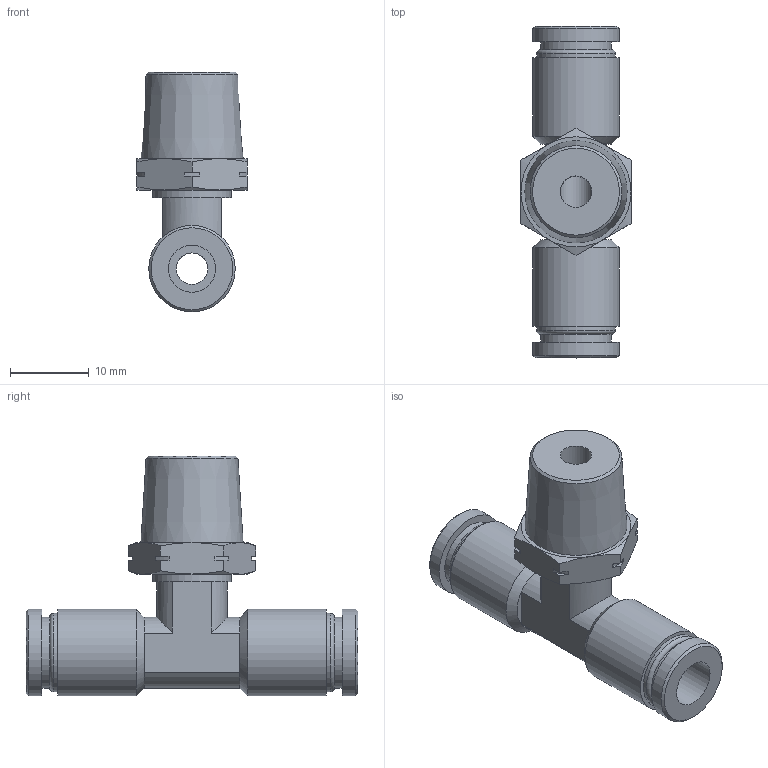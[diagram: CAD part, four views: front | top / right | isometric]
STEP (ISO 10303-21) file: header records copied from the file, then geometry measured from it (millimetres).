
FILE_DESCRIPTION(/* description */ (''),/* implementation_level */ '2;1');
FILE_NAME(/* name */ 'LXH31 0006 N2.stp',/* time_stamp */ '2025-09-15T13:11:11+02:00',/* author */ ('freju'),/* organization */ (''),/* preprocessor_version */ 'ST-DEVELOPER v20.1',/* originating_system */ 'Autodesk Inventor 2026',/* authorisation */ '');
FILE_SCHEMA (('AUTOMOTIVE_DESIGN { 1 0 10303 214 3 1 1 }'));
Length unit declared in the file: millimetre
Products named in the file (1): LXH31 0006 N2
Bounding box: 14 x 42.2 x 30.5 mm (x, y, z)
Volume: 4461.7 mm3; surface area: 3634.7 mm2
Topology: 1 solids, 1 shells, 80 faces, 187 edges, 117 vertices
Faces by surface type: plane 36, cylinder 24, cone 18, torus 2
Full cylindrical faces by diameter (mm): 4 x2, 6 x2, 9 x2, 10 x3, 11 x4
Entity records: 2313 total; most frequent: CARTESIAN_POINT 433, DIRECTION 404, ORIENTED_EDGE 374, EDGE_CURVE 187, AXIS2_PLACEMENT_3D 160, VERTEX_POINT 117, EDGE_LOOP 92, LINE 84
